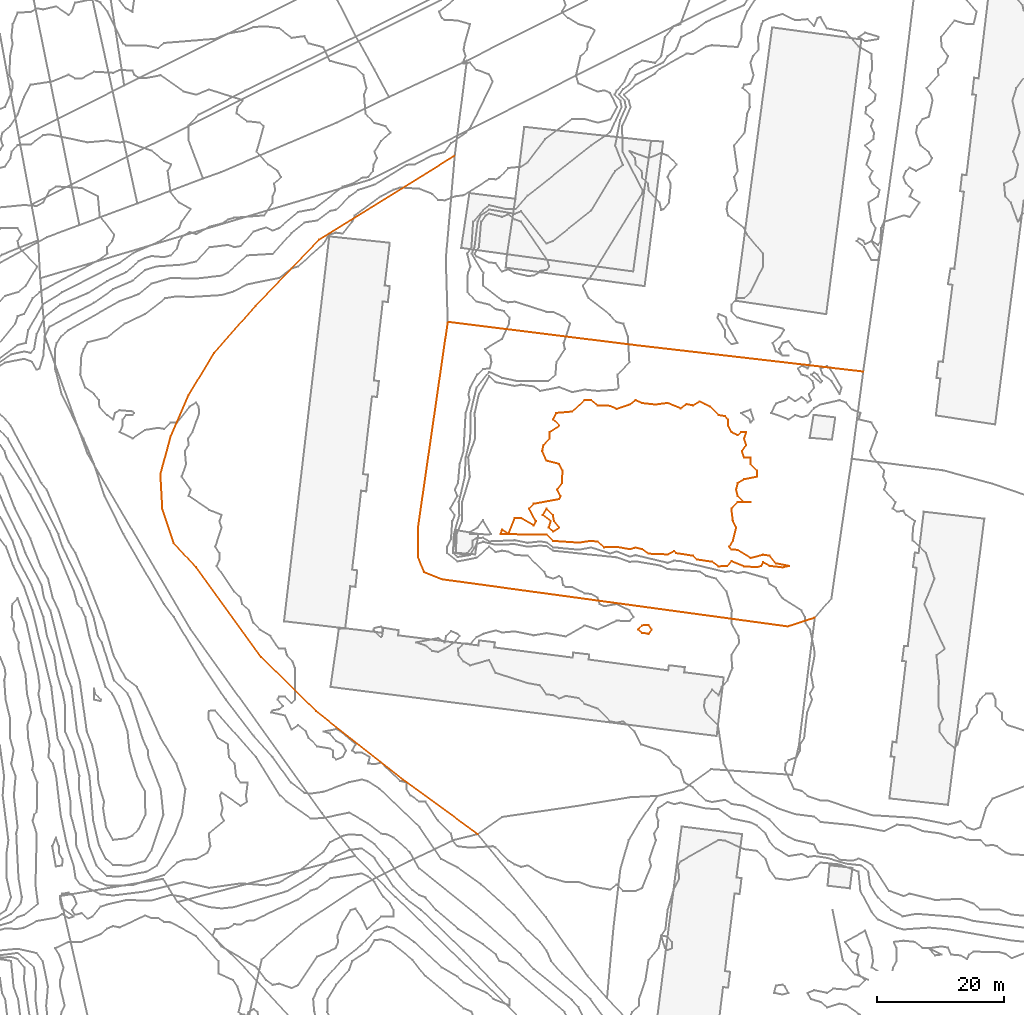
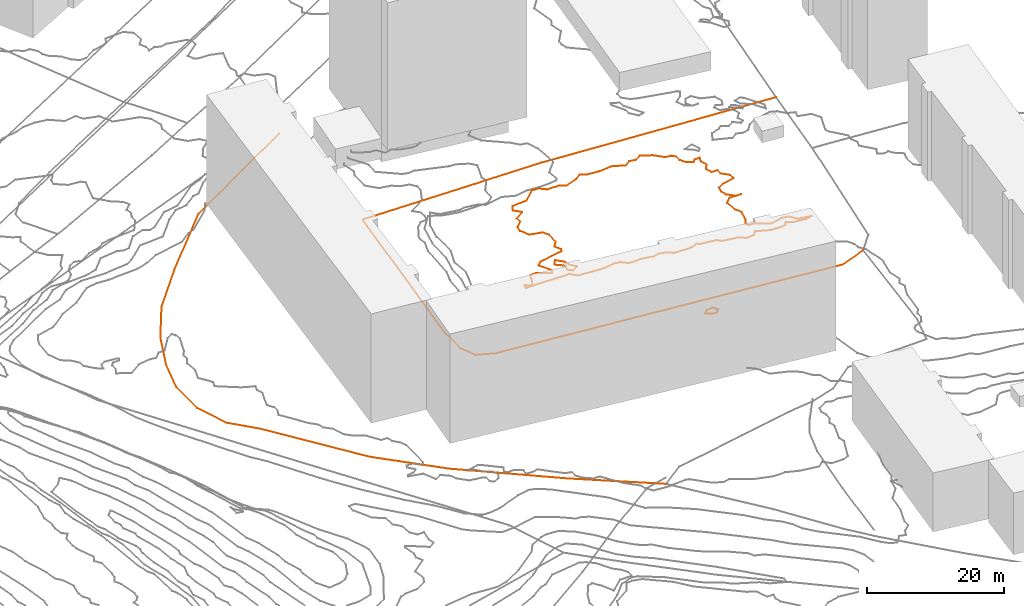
# Not in any storey, part 156 of 419: 6 proxies.
"""IFC2X3 model written with IfcOpenShell, lengths in metres."""

from ifc_helpers import new_model, entity, si_unit, frame, origin_with_axes, place, context, subcontext, project, element, save


model = new_model("IFC2X3")

# Units and contexts
model_context = context("Model", 3, precision=1e-05, world=origin_with_axes())
body_context = subcontext(model_context, "Body", "Model", "MODEL_VIEW")
ifc_project = project(units=[si_unit("AREAUNIT", "SQUARE_METRE"), si_unit("LENGTHUNIT", "METRE")], contexts=[model_context])

# Proxies
proxy_1_placement = place(None, frame((234.4920204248, 707.2976909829, 28.2), z_axis=(0.0, 0.0, 1.0), x_axis=(1.0, 0.0, 0.0)))
element("IfcBuildingElementProxy", 1, at=proxy_1_placement, Name="Route 53", ObjectType="NOTDEFINED", context=body_context, shape_type="GeometricCurveSet", body=[
    entity("IfcGeometricCurveSet", [entity("IfcPolyline", [entity("IfcCartesianPoint", [46.2, 50.0, -1.1]), entity("IfcCartesianPoint", [24.9, 36.7999999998, 0.0]), entity("IfcCartesianPoint", [14.9, 26.3999999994, 0.0]), entity("IfcCartesianPoint", [8.4, 19.0, 0.0]), entity("IfcCartesianPoint", [4.4, 12.3999999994, 0.0]), entity("IfcCartesianPoint", [1.6, 5.8999999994, 0.0]), entity("IfcCartesianPoint", [0.0, 0.0, 0.0]), entity("IfcCartesianPoint", [0.2999999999, -5.4000000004, -0.4]), entity("IfcCartesianPoint", [2.1, -10.8000000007, -0.4]), entity("IfcCartesianPoint", [5.6, -14.6000000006, -0.4]), entity("IfcCartesianPoint", [15.7999999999, -28.7000000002, -0.4]), entity("IfcCartesianPoint", [24.4, -37.2000000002, -0.4]), entity("IfcCartesianPoint", [38.0, -47.9000000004, -0.4]), entity("IfcCartesianPoint", [49.7999999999, -56.5, -0.3])])]),
])
proxy_2_placement = place(None, frame((279.5920204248, 731.1976909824, 27.9), z_axis=(0.0, 0.0, 1.0), x_axis=(1.0, 0.0, 0.0)))
element("IfcBuildingElementProxy", 2, at=proxy_2_placement, Name="Route 137", ObjectType="NOTDEFINED", context=body_context, shape_type="GeometricCurveSet", body=[
    entity("IfcGeometricCurveSet", [entity("IfcPolyline", [entity("IfcCartesianPoint", [0.0, 0.0, 0.0]), entity("IfcCartesianPoint", [28.1, -3.5, 2.4]), entity("IfcCartesianPoint", [65.2, -7.7999999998, 3.7])])]),
])
proxy_3_placement = place(None, frame((274.8920204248, 694.3976909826, 28.9), z_axis=(0.0, 0.0, 1.0), x_axis=(1.0, 0.0, 0.0)))
element("IfcBuildingElementProxy", 3, at=proxy_3_placement, Name="Route 331", ObjectType="NOTDEFINED", context=body_context, shape_type="GeometricCurveSet", body=[
    entity("IfcGeometricCurveSet", [entity("IfcPolyline", [entity("IfcCartesianPoint", [4.7, 36.7999999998, -1.0]), entity("IfcCartesianPoint", [0.0, 4.4000000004, 0.0]), entity("IfcCartesianPoint", [0.0, 0.0, 0.0]), entity("IfcCartesianPoint", [1.0, -2.5, 0.0]), entity("IfcCartesianPoint", [3.7, -3.5999999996, 0.0]), entity("IfcCartesianPoint", [58.0, -11.0, 1.3]), entity("IfcCartesianPoint", [62.2999999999, -9.5999999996, 1.5])])]),
])
proxy_4_placement = place(None, frame((294.4920356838, 700.8976909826, 33.0), z_axis=(0.0, 0.0, 1.0), x_axis=(1.0, 0.0, 0.0)))
element("IfcBuildingElementProxy", 4, at=proxy_4_placement, Name="Contour 33.0 m", ObjectType="NOTDEFINED", context=body_context, shape_type="GeometricCurveSet", body=[
    entity("IfcGeometricCurveSet", [entity("IfcPolyline", [entity("IfcCartesianPoint", [1.599984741, -2.6153936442, 0.0]), entity("IfcCartesianPoint", [2.5999722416, -2.0, 0.0]), entity("IfcCartesianPoint", [1.7999542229, -1.0, 0.0]), entity("IfcCartesianPoint", [1.5999514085, 0.0, 0.0]), entity("IfcCartesianPoint", [0.599984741, 0.999966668, 0.0]), entity("IfcCartesianPoint", [0.0, 0.0, 0.0]), entity("IfcCartesianPoint", [1.2666937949, -1.0, 0.0]), entity("IfcCartesianPoint", [0.9333180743, -2.0, 0.0]), entity("IfcCartesianPoint", [1.599984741, -2.6153936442, 0.0])])]),
])
proxy_5_placement = place(None, frame((287.9101990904, 697.8976909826, 33.0), z_axis=(0.0, 0.0, 1.0), x_axis=(1.0, 0.0, 0.0)))
element("IfcBuildingElementProxy", 5, at=proxy_5_placement, Name="Contour 33.0 m", ObjectType="NOTDEFINED", context=body_context, shape_type="GeometricCurveSet", body=[
    entity("IfcGeometricCurveSet", [entity("IfcPolyline", [entity("IfcCartesianPoint", [45.2272770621, -5.0, 0.0]), entity("IfcCartesianPoint", [44.1818213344, -5.2380926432, 0.0]), entity("IfcCartesianPoint", [42.1817963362, -5.0, 0.0]), entity("IfcCartesianPoint", [41.1818213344, -4.4285558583, 0.0]), entity("IfcCartesianPoint", [40.8741245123, -5.0, 0.0]), entity("IfcCartesianPoint", [40.1818213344, -5.2195126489, 0.0]), entity("IfcCartesianPoint", [38.1818213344, -5.0695667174, 0.0]), entity("IfcCartesianPoint", [36.1818213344, -4.2500029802, 0.0]), entity("IfcCartesianPoint", [35.5502397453, -5.0, 0.0]), entity("IfcCartesianPoint", [34.1818213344, -5.0769236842, 0.0]), entity("IfcCartesianPoint", [33.1818213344, -4.3529378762, 0.0]), entity("IfcCartesianPoint", [30.7744123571, -4.0, 0.0]), entity("IfcCartesianPoint", [30.1818213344, -3.4074089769, 0.0]), entity("IfcCartesianPoint", [27.5151546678, -3.0, 0.0]), entity("IfcCartesianPoint", [27.1818213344, -2.666666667, 0.0]), entity("IfcCartesianPoint", [26.1818213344, -3.1999969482, 0.0]), entity("IfcCartesianPoint", [23.1818213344, -3.0887101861, 0.0]), entity("IfcCartesianPoint", [22.1818213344, -2.3846161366, 0.0]), entity("IfcCartesianPoint", [21.1818213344, -2.1388872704, 0.0]), entity("IfcCartesianPoint", [20.1818213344, -2.3823559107, 0.0]), entity("IfcCartesianPoint", [18.1818213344, -2.0143888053, 0.0]), entity("IfcCartesianPoint", [16.1818213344, -2.0828031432, 0.0]), entity("IfcCartesianPoint", [15.1818213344, -1.2142850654, 0.0]), entity("IfcCartesianPoint", [14.1818213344, -1.07368383, 0.0]), entity("IfcCartesianPoint", [12.1818213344, -1.3499971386, 0.0]), entity("IfcCartesianPoint", [8.1818213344, -1.0769227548, 0.0]), entity("IfcCartesianPoint", [7.1818213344, -0.117649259, 0.0]), entity("IfcCartesianPoint", [0.0, 0.0, 0.0]), entity("IfcCartesianPoint", [0.1818213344, 0.6667090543, 0.0]), entity("IfcCartesianPoint", [1.1818213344, 3.3332e-05, 0.0]), entity("IfcCartesianPoint", [2.1818213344, 2.5000249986, 0.0]), entity("IfcCartesianPoint", [3.1818213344, 2.5000166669, 0.0]), entity("IfcCartesianPoint", [5.1818213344, 1.3332909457, 0.0]), entity("IfcCartesianPoint", [5.5151546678, 2.0, 0.0]), entity("IfcCartesianPoint", [4.4317974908, 4.0, 0.0]), entity("IfcCartesianPoint", [5.1818213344, 4.7500238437, 0.0]), entity("IfcCartesianPoint", [9.1818213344, 5.5000500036, 0.0]), entity("IfcCartesianPoint", [9.3817908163, 6.0, 0.0]), entity("IfcCartesianPoint", [8.8485303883, 7.0, 0.0]), entity("IfcCartesianPoint", [9.6103771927, 8.0, 0.0]), entity("IfcCartesianPoint", [9.681808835, 10.0, 0.0]), entity("IfcCartesianPoint", [9.1818213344, 10.9999750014, 0.0]), entity("IfcCartesianPoint", [7.1818213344, 11.4999499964, 0.0]), entity("IfcCartesianPoint", [6.5151546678, 13.0, 0.0]), entity("IfcCartesianPoint", [6.681771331, 14.0, 0.0]), entity("IfcCartesianPoint", [7.681771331, 15.0, 0.0]), entity("IfcCartesianPoint", [7.681771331, 16.0, 0.0]), entity("IfcCartesianPoint", [9.1817713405, 17.0, 0.0]), entity("IfcCartesianPoint", [8.1817213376, 18.0, 0.0]), entity("IfcCartesianPoint", [8.681771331, 19.0, 0.0]), entity("IfcCartesianPoint", [11.1818213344, 19.2222269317, 0.0]), entity("IfcCartesianPoint", [13.1818213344, 21.0566016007, 0.0]), entity("IfcCartesianPoint", [14.1818284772, 21.0, 0.0]), entity("IfcCartesianPoint", [15.1818213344, 20.1764653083, 0.0]), entity("IfcCartesianPoint", [17.1818213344, 20.1190463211, 0.0]), entity("IfcCartesianPoint", [18.1818213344, 19.6249910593, 0.0]), entity("IfcCartesianPoint", [20.1818213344, 20.3333386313, 0.0]), entity("IfcCartesianPoint", [21.1818213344, 21.0000022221, 0.0]), entity("IfcCartesianPoint", [22.1818213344, 20.5454561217, 0.0]), entity("IfcCartesianPoint", [24.1818213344, 20.3214305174, 0.0]), entity("IfcCartesianPoint", [26.1818213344, 20.5714259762, 0.0]), entity("IfcCartesianPoint", [28.1818213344, 19.7272853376, 0.0]), entity("IfcCartesianPoint", [29.1818213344, 20.3749980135, 0.0]), entity("IfcCartesianPoint", [30.1818213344, 20.1999949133, 0.0]), entity("IfcCartesianPoint", [31.1818213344, 20.8000050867, 0.0]), entity("IfcCartesianPoint", [32.8485021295, 20.0, 0.0]), entity("IfcCartesianPoint", [34.1818213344, 18.6667090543, 0.0]), entity("IfcCartesianPoint", [35.1818213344, 18.5000500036, 0.0]), entity("IfcCartesianPoint", [35.6818713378, 18.0, 0.0]), entity("IfcCartesianPoint", [35.6818380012, 17.0, 0.0]), entity("IfcCartesianPoint", [36.1818213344, 16.000033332, 0.0]), entity("IfcCartesianPoint", [37.1818213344, 15.5000500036, 0.0]), entity("IfcCartesianPoint", [37.681771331, 16.0, 0.0]), entity("IfcCartesianPoint", [38.5151122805, 16.0, 0.0]), entity("IfcCartesianPoint", [38.1818546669, 15.0, 0.0]), entity("IfcCartesianPoint", [38.5151122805, 14.0, 0.0]), entity("IfcCartesianPoint", [37.8485303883, 13.0, 0.0]), entity("IfcCartesianPoint", [38.1818213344, 12.000099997, 0.0]), entity("IfcCartesianPoint", [39.1819213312, 12.0, 0.0]), entity("IfcCartesianPoint", [39.1819213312, 11.0, 0.0]), entity("IfcCartesianPoint", [40.1819213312, 10.0, 0.0]), entity("IfcCartesianPoint", [40.1818713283, 9.0, 0.0]), entity("IfcCartesianPoint", [38.1818213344, 8.5999847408, 0.0]), entity("IfcCartesianPoint", [37.1818546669, 8.0, 0.0]), entity("IfcCartesianPoint", [36.931845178, 7.0, 0.0]), entity("IfcCartesianPoint", [37.1818213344, 6.000099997, 0.0]), entity("IfcCartesianPoint", [38.1818213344, 5.000099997, 0.0]), entity("IfcCartesianPoint", [39.1818463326, 5.0, 0.0]), entity("IfcCartesianPoint", [37.1818213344, 4.9999500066, 0.0]), entity("IfcCartesianPoint", [36.1818713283, 4.0, 0.0]), entity("IfcCartesianPoint", [36.4317974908, 2.0, 0.0]), entity("IfcCartesianPoint", [36.931845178, 1.0, 0.0]), entity("IfcCartesianPoint", [36.4317974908, -1.0, 0.0]), entity("IfcCartesianPoint", [35.848488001, -2.0, 0.0]), entity("IfcCartesianPoint", [36.1818213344, -2.4000152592, 0.0]), entity("IfcCartesianPoint", [37.1818213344, -2.4999833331, 0.0]), entity("IfcCartesianPoint", [39.1818213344, -3.75, 0.0]), entity("IfcCartesianPoint", [41.1818213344, -3.2499761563, 0.0]), entity("IfcCartesianPoint", [42.1818213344, -3.4000152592, 0.0]), entity("IfcCartesianPoint", [43.1818213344, -4.5999847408, 0.0]), entity("IfcCartesianPoint", [45.2272770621, -5.0, 0.0])])]),
])
proxy_6_placement = place(None, frame((309.4253537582, 682.8976909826, 30.0), z_axis=(0.0, 0.0, 1.0), x_axis=(1.0, 0.0, 0.0)))
element("IfcBuildingElementProxy", 6, at=proxy_6_placement, Name="Contour 30.0 m", ObjectType="NOTDEFINED", context=body_context, shape_type="GeometricCurveSet", body=[
    entity("IfcGeometricCurveSet", [entity("IfcPolyline", [entity("IfcCartesianPoint", [1.6666666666, -0.666659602, 0.0]), entity("IfcCartesianPoint", [2.1666583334, 0.0, 0.0]), entity("IfcCartesianPoint", [1.6666666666, 0.7499940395, 0.0]), entity("IfcCartesianPoint", [0.6666666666, 0.666666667, 0.0]), entity("IfcCartesianPoint", [0.0, 0.0, 0.0]), entity("IfcCartesianPoint", [0.6666666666, -0.4999875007, 0.0]), entity("IfcCartesianPoint", [1.6666666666, -0.666659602, 0.0])])]),
])

save(model, "model.ifc")
